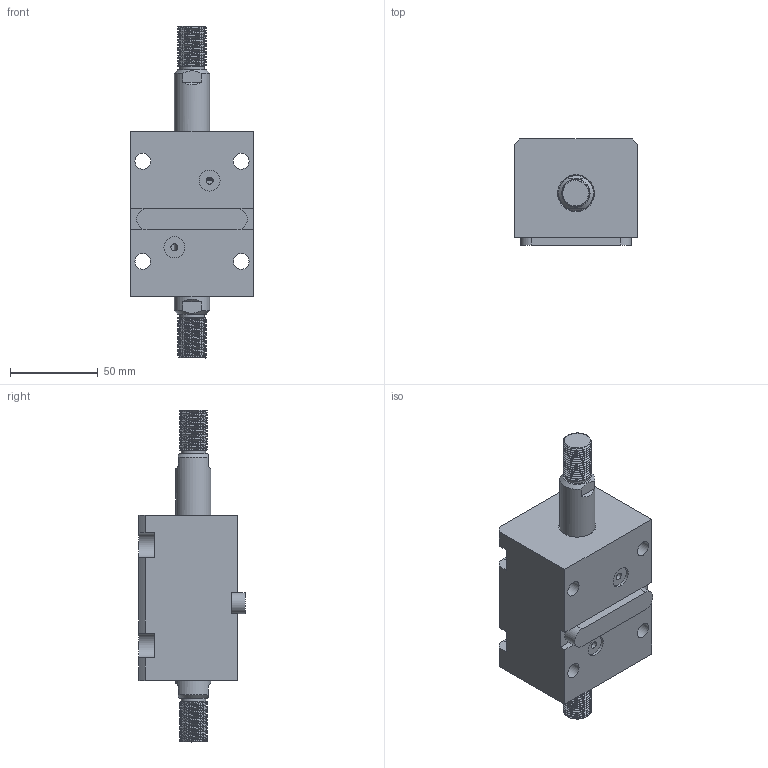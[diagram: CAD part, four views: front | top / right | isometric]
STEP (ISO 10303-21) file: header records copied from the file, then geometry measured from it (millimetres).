
FILE_DESCRIPTION(/* description */ (''),/* implementation_level */ '2;1');
FILE_NAME(/* name */ 'CHTB-LWM32-25W.stp',/* time_stamp */ '2022-04-29T16:32:00+08:00',/* author */ (''),/* organization */ (''),/* preprocessor_version */ 'ST-DEVELOPER v16.7',/* originating_system */ 'SIEMENS PLM Software NX 12.0',/* authorisation */ '');
FILE_SCHEMA (('AUTOMOTIVE_DESIGN { 1 0 10303 214 3 1 1 1 }'));
Length unit declared in the file: millimetre
Products named in the file (1): CHTB-LWM32-25W
Bounding box: 70 x 60.5 x 189 mm (x, y, z)
Volume: 358591.3 mm3; surface area: 70705.7 mm2
Topology: 3 solids, 3 shells, 503 faces, 1523 edges, 1067 vertices
Faces by surface type: plane 333, extrusion 89, cylinder 46, bspline 14, torus 12, cone 9
Full cylindrical faces by diameter (mm): 3 x2, 4 x2, 9 x4, 12 x2, 14 x2, 20 x4, 24.5 x1, 26 x2, 28 x1, 32 x5, 40 x1
Entity records: 28011 total; most frequent: CARTESIAN_POINT 12761, ORIENTED_EDGE 2936, DIRECTION 2055, EDGE_CURVE 1468, VERTEX_POINT 1056, VECTOR 1039, LINE 950, EDGE_LOOP 602
